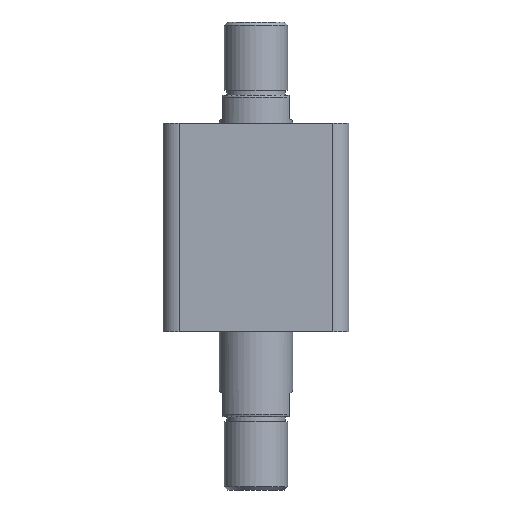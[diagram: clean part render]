
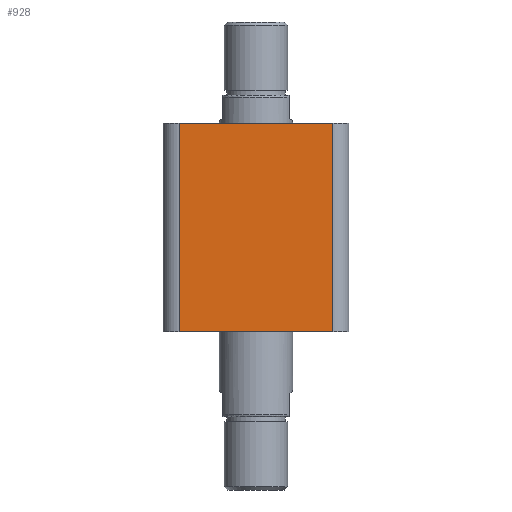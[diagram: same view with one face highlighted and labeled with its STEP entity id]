
A CAD part, front view. The second image highlights one B-rep face of the part: STEP entity #928.
In plain terms, the highlighted planar face has unit normal (0, -1, 0).
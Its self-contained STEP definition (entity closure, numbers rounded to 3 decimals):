
#382 = ORIENTED_EDGE ( 'NONE', *, *, #1461, .T. ) ;
#383 = ORIENTED_EDGE ( 'NONE', *, *, #1462, .F. ) ;
#384 = ORIENTED_EDGE ( 'NONE', *, *, #1466, .T. ) ;
#458 = DIRECTION ( 'NONE',  ( 0., 0., -1. ) ) ;
#475 = CARTESIAN_POINT ( 'NONE',  ( -57., -57., 128. ) ) ;
#476 = CARTESIAN_POINT ( 'NONE',  ( -47., -57., 128. ) ) ;
#481 = DIRECTION ( 'NONE',  ( 1., 0., 0. ) ) ;
#488 = CARTESIAN_POINT ( 'NONE',  ( 47., -57., 128. ) ) ;
#489 = DIRECTION ( 'NONE',  ( 0., 0., 1. ) ) ;
#490 = CARTESIAN_POINT ( 'NONE',  ( -57., -57., 0. ) ) ;
#491 = DIRECTION ( 'NONE',  ( 1., 0., 0. ) ) ;
#745 = CARTESIAN_POINT ( 'NONE',  ( 47., -57., 0. ) ) ;
#746 = CARTESIAN_POINT ( 'NONE',  ( 47., -57., 128. ) ) ;
#747 = CARTESIAN_POINT ( 'NONE',  ( -47., -57., 128. ) ) ;
#762 = CARTESIAN_POINT ( 'NONE',  ( -47., -57., 0. ) ) ;
#928 = ADVANCED_FACE ( 'NONE', ( #2788 ), #1832, .F. ) ;
#1461 = EDGE_CURVE ( 'NONE', #2355, #2372, #2033, .T. ) ;
#1462 = EDGE_CURVE ( 'NONE', #2355, #2354, #2034, .T. ) ;
#1466 = EDGE_CURVE ( 'NONE', #2357, #2354, #2042, .T. ) ;
#1467 = EDGE_CURVE ( 'NONE', #2372, #2357, #2044, .T. ) ;
#1598 = AXIS2_PLACEMENT_3D ( 'NONE', #1834, #1830, #1829 ) ;
#1829 = DIRECTION ( 'NONE',  ( 0., 0., 1. ) ) ;
#1830 = DIRECTION ( 'NONE',  ( 0., 1., 0. ) ) ;
#1832 = PLANE ( 'NONE',  #1598 ) ;
#1834 = CARTESIAN_POINT ( 'NONE',  ( -57., -57., 128. ) ) ;
#2033 = LINE ( 'NONE', #476, #2036 ) ;
#2034 = LINE ( 'NONE', #475, #2038 ) ;
#2036 = VECTOR ( 'NONE', #458, 1000. ) ;
#2038 = VECTOR ( 'NONE', #481, 1000. ) ;
#2042 = LINE ( 'NONE', #488, #2045 ) ;
#2044 = LINE ( 'NONE', #490, #2047 ) ;
#2045 = VECTOR ( 'NONE', #489, 1000. ) ;
#2047 = VECTOR ( 'NONE', #491, 1000. ) ;
#2354 = VERTEX_POINT ( 'NONE', #746 ) ;
#2355 = VERTEX_POINT ( 'NONE', #747 ) ;
#2357 = VERTEX_POINT ( 'NONE', #745 ) ;
#2372 = VERTEX_POINT ( 'NONE', #762 ) ;
#2506 = ORIENTED_EDGE ( 'NONE', *, *, #1467, .T. ) ;
#2647 = EDGE_LOOP ( 'NONE', ( #2506, #384, #383, #382 ) ) ;
#2788 = FACE_OUTER_BOUND ( 'NONE', #2647, .T. ) ;
